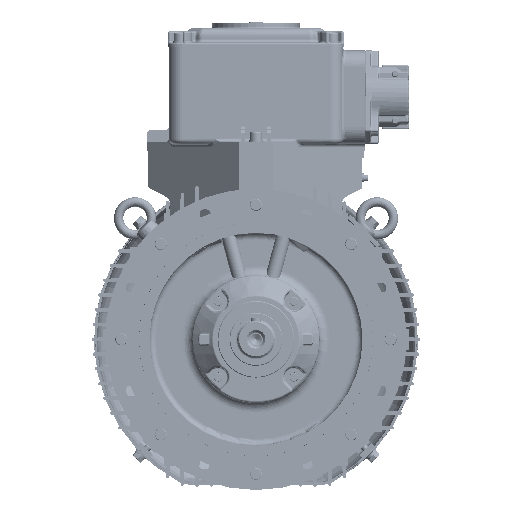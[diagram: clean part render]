
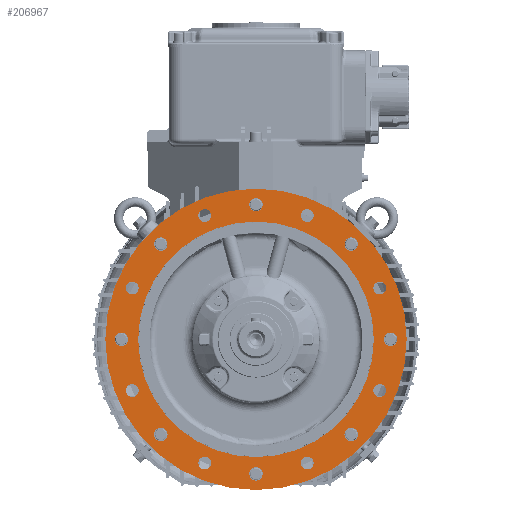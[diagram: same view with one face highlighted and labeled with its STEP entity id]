
A CAD part, left-side view. The second image highlights one B-rep face of the part: STEP entity #206967.
In plain terms, the highlighted planar face has unit normal (-1, 0, 0).
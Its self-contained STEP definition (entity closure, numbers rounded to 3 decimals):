
#38478=PLANE('',#218266);
#75192=ORIENTED_EDGE('',*,*,#99767,.F.);
#75193=ORIENTED_EDGE('',*,*,#99758,.T.);
#75194=ORIENTED_EDGE('',*,*,#99757,.T.);
#75195=ORIENTED_EDGE('',*,*,#99756,.T.);
#75196=ORIENTED_EDGE('',*,*,#99755,.T.);
#75197=ORIENTED_EDGE('',*,*,#99754,.T.);
#75198=ORIENTED_EDGE('',*,*,#99753,.T.);
#75199=ORIENTED_EDGE('',*,*,#99752,.T.);
#75200=ORIENTED_EDGE('',*,*,#99751,.T.);
#75201=ORIENTED_EDGE('',*,*,#99769,.T.);
#75202=ORIENTED_EDGE('',*,*,#99766,.F.);
#75203=ORIENTED_EDGE('',*,*,#99765,.F.);
#75204=ORIENTED_EDGE('',*,*,#99764,.F.);
#75205=ORIENTED_EDGE('',*,*,#99763,.F.);
#75206=ORIENTED_EDGE('',*,*,#99762,.F.);
#75207=ORIENTED_EDGE('',*,*,#99761,.F.);
#75208=ORIENTED_EDGE('',*,*,#99760,.F.);
#75209=ORIENTED_EDGE('',*,*,#99759,.F.);
#99751=EDGE_CURVE('',#114871,#114871,#119919,.T.);
#99752=EDGE_CURVE('',#114872,#114872,#119920,.T.);
#99753=EDGE_CURVE('',#114873,#114873,#119921,.T.);
#99754=EDGE_CURVE('',#114874,#114874,#119922,.T.);
#99755=EDGE_CURVE('',#114875,#114875,#119923,.T.);
#99756=EDGE_CURVE('',#114876,#114876,#119924,.T.);
#99757=EDGE_CURVE('',#114877,#114877,#119925,.T.);
#99758=EDGE_CURVE('',#114878,#114878,#119926,.T.);
#99759=EDGE_CURVE('',#114879,#114879,#119927,.T.);
#99760=EDGE_CURVE('',#114880,#114880,#119928,.T.);
#99761=EDGE_CURVE('',#114881,#114881,#119929,.T.);
#99762=EDGE_CURVE('',#114882,#114882,#119930,.T.);
#99763=EDGE_CURVE('',#114883,#114883,#119931,.T.);
#99764=EDGE_CURVE('',#114884,#114884,#119932,.T.);
#99765=EDGE_CURVE('',#114885,#114885,#119933,.T.);
#99766=EDGE_CURVE('',#114886,#114886,#119934,.T.);
#99767=EDGE_CURVE('',#114887,#114887,#119935,.T.);
#99769=EDGE_CURVE('',#114889,#114889,#119937,.T.);
#114871=VERTEX_POINT('',#314735);
#114872=VERTEX_POINT('',#314738);
#114873=VERTEX_POINT('',#314741);
#114874=VERTEX_POINT('',#314744);
#114875=VERTEX_POINT('',#314747);
#114876=VERTEX_POINT('',#314750);
#114877=VERTEX_POINT('',#314753);
#114878=VERTEX_POINT('',#314756);
#114879=VERTEX_POINT('',#314760);
#114880=VERTEX_POINT('',#314763);
#114881=VERTEX_POINT('',#314766);
#114882=VERTEX_POINT('',#314769);
#114883=VERTEX_POINT('',#314772);
#114884=VERTEX_POINT('',#314775);
#114885=VERTEX_POINT('',#314778);
#114886=VERTEX_POINT('',#314781);
#114887=VERTEX_POINT('',#314784);
#114889=VERTEX_POINT('',#314793);
#119919=CIRCLE('',#218227,10.);
#119920=CIRCLE('',#218229,10.);
#119921=CIRCLE('',#218231,10.);
#119922=CIRCLE('',#218233,10.);
#119923=CIRCLE('',#218235,10.);
#119924=CIRCLE('',#218237,10.);
#119925=CIRCLE('',#218239,10.);
#119926=CIRCLE('',#218241,10.);
#119927=CIRCLE('',#218244,9.5);
#119928=CIRCLE('',#218246,9.5);
#119929=CIRCLE('',#218248,9.5);
#119930=CIRCLE('',#218250,9.5);
#119931=CIRCLE('',#218252,9.5);
#119932=CIRCLE('',#218254,9.5);
#119933=CIRCLE('',#218256,9.5);
#119934=CIRCLE('',#218258,9.5);
#119935=CIRCLE('',#218260,225.);
#119937=CIRCLE('',#218267,175.919);
#129907=EDGE_LOOP('',(#75192));
#129908=EDGE_LOOP('',(#75193));
#129909=EDGE_LOOP('',(#75194));
#129910=EDGE_LOOP('',(#75195));
#129911=EDGE_LOOP('',(#75196));
#129912=EDGE_LOOP('',(#75197));
#129913=EDGE_LOOP('',(#75198));
#129914=EDGE_LOOP('',(#75199));
#129915=EDGE_LOOP('',(#75200));
#129916=EDGE_LOOP('',(#75201));
#129917=EDGE_LOOP('',(#75202));
#129918=EDGE_LOOP('',(#75203));
#129919=EDGE_LOOP('',(#75204));
#129920=EDGE_LOOP('',(#75205));
#129921=EDGE_LOOP('',(#75206));
#129922=EDGE_LOOP('',(#75207));
#129923=EDGE_LOOP('',(#75208));
#129924=EDGE_LOOP('',(#75209));
#140897=FACE_BOUND('',#129907,.T.);
#140898=FACE_BOUND('',#129908,.T.);
#140899=FACE_BOUND('',#129909,.T.);
#140900=FACE_BOUND('',#129910,.T.);
#140901=FACE_BOUND('',#129911,.T.);
#140902=FACE_BOUND('',#129912,.T.);
#140903=FACE_BOUND('',#129913,.T.);
#140904=FACE_BOUND('',#129914,.T.);
#140905=FACE_BOUND('',#129915,.T.);
#140906=FACE_BOUND('',#129916,.T.);
#140907=FACE_BOUND('',#129917,.T.);
#140908=FACE_BOUND('',#129918,.T.);
#140909=FACE_BOUND('',#129919,.T.);
#140910=FACE_BOUND('',#129920,.T.);
#140911=FACE_BOUND('',#129921,.T.);
#140912=FACE_BOUND('',#129922,.T.);
#140913=FACE_BOUND('',#129923,.T.);
#140914=FACE_BOUND('',#129924,.T.);
#206967=ADVANCED_FACE('',(#140897,#140898,#140899,#140900,#140901,#140902,
#140903,#140904,#140905,#140906,#140907,#140908,#140909,#140910,#140911,
#140912,#140913,#140914),#38478,.F.);
#218227=AXIS2_PLACEMENT_3D('',#314734,#253974,#253975);
#218229=AXIS2_PLACEMENT_3D('',#314737,#253978,#253979);
#218231=AXIS2_PLACEMENT_3D('',#314740,#253982,#253983);
#218233=AXIS2_PLACEMENT_3D('',#314743,#253986,#253987);
#218235=AXIS2_PLACEMENT_3D('',#314746,#253990,#253991);
#218237=AXIS2_PLACEMENT_3D('',#314749,#253994,#253995);
#218239=AXIS2_PLACEMENT_3D('',#314752,#253998,#253999);
#218241=AXIS2_PLACEMENT_3D('',#314755,#254002,#254003);
#218244=AXIS2_PLACEMENT_3D('',#314759,#254008,#254009);
#218246=AXIS2_PLACEMENT_3D('',#314762,#254012,#254013);
#218248=AXIS2_PLACEMENT_3D('',#314765,#254016,#254017);
#218250=AXIS2_PLACEMENT_3D('',#314768,#254020,#254021);
#218252=AXIS2_PLACEMENT_3D('',#314771,#254024,#254025);
#218254=AXIS2_PLACEMENT_3D('',#314774,#254028,#254029);
#218256=AXIS2_PLACEMENT_3D('',#314777,#254032,#254033);
#218258=AXIS2_PLACEMENT_3D('',#314780,#254036,#254037);
#218260=AXIS2_PLACEMENT_3D('',#314783,#254040,#254041);
#218266=AXIS2_PLACEMENT_3D('',#314791,#254052,#254053);
#218267=AXIS2_PLACEMENT_3D('',#314792,#254054,#254055);
#253974=DIRECTION('',(1.,0.,0.));
#253975=DIRECTION('',(0.,0.,-1.));
#253978=DIRECTION('',(1.,0.,0.));
#253979=DIRECTION('',(0.,0.,-1.));
#253982=DIRECTION('',(1.,0.,0.));
#253983=DIRECTION('',(0.,0.,-1.));
#253986=DIRECTION('',(1.,0.,0.));
#253987=DIRECTION('',(0.,0.,-1.));
#253990=DIRECTION('',(1.,0.,0.));
#253991=DIRECTION('',(0.,0.,-1.));
#253994=DIRECTION('',(1.,0.,0.));
#253995=DIRECTION('',(0.,0.,-1.));
#253998=DIRECTION('',(1.,0.,0.));
#253999=DIRECTION('',(0.,0.,-1.));
#254002=DIRECTION('',(1.,0.,0.));
#254003=DIRECTION('',(0.,0.,-1.));
#254008=DIRECTION('',(-1.,0.,0.));
#254009=DIRECTION('',(0.,-1.,0.));
#254012=DIRECTION('',(-1.,0.,0.));
#254013=DIRECTION('',(0.,-1.,0.));
#254016=DIRECTION('',(-1.,0.,0.));
#254017=DIRECTION('',(0.,-1.,0.));
#254020=DIRECTION('',(-1.,0.,0.));
#254021=DIRECTION('',(0.,-1.,0.));
#254024=DIRECTION('',(-1.,0.,0.));
#254025=DIRECTION('',(0.,-1.,0.));
#254028=DIRECTION('',(-1.,0.,0.));
#254029=DIRECTION('',(0.,-1.,0.));
#254032=DIRECTION('',(-1.,0.,0.));
#254033=DIRECTION('',(0.,-1.,0.));
#254036=DIRECTION('',(-1.,0.,0.));
#254037=DIRECTION('',(0.,-1.,0.));
#254040=DIRECTION('',(1.,0.,0.));
#254041=DIRECTION('',(0.,0.,1.));
#254052=DIRECTION('',(1.,0.,0.));
#254053=DIRECTION('',(0.,0.,1.));
#254054=DIRECTION('',(1.,0.,0.));
#254055=DIRECTION('',(0.,0.,1.));
#314734=CARTESIAN_POINT('',(-84.5,142.128,142.128));
#314735=CARTESIAN_POINT('',(-84.5,142.128,132.128));
#314737=CARTESIAN_POINT('',(-84.5,201.,0.));
#314738=CARTESIAN_POINT('',(-84.5,201.,-10.));
#314740=CARTESIAN_POINT('',(-84.5,142.128,-142.128));
#314741=CARTESIAN_POINT('',(-84.5,142.128,-152.128));
#314743=CARTESIAN_POINT('',(-84.5,0.,-201.));
#314744=CARTESIAN_POINT('',(-84.5,0.,-211.));
#314746=CARTESIAN_POINT('',(-84.5,-142.128,-142.128));
#314747=CARTESIAN_POINT('',(-84.5,-142.128,-152.128));
#314749=CARTESIAN_POINT('',(-84.5,-201.,0.));
#314750=CARTESIAN_POINT('',(-84.5,-201.,-10.));
#314752=CARTESIAN_POINT('',(-84.5,-142.128,142.128));
#314753=CARTESIAN_POINT('',(-84.5,-142.128,132.128));
#314755=CARTESIAN_POINT('',(-84.5,0.,201.));
#314756=CARTESIAN_POINT('',(-84.5,0.,191.));
#314759=CARTESIAN_POINT('',(-84.5,184.776,-76.537));
#314760=CARTESIAN_POINT('',(-84.5,175.276,-76.537));
#314762=CARTESIAN_POINT('',(-84.5,76.537,-184.776));
#314763=CARTESIAN_POINT('',(-84.5,67.037,-184.776));
#314765=CARTESIAN_POINT('',(-84.5,-76.537,-184.776));
#314766=CARTESIAN_POINT('',(-84.5,-86.037,-184.776));
#314768=CARTESIAN_POINT('',(-84.5,-184.776,-76.537));
#314769=CARTESIAN_POINT('',(-84.5,-194.276,-76.537));
#314771=CARTESIAN_POINT('',(-84.5,-184.776,76.537));
#314772=CARTESIAN_POINT('',(-84.5,-194.276,76.537));
#314774=CARTESIAN_POINT('',(-84.5,-76.537,184.776));
#314775=CARTESIAN_POINT('',(-84.5,-86.037,184.776));
#314777=CARTESIAN_POINT('',(-84.5,76.537,184.776));
#314778=CARTESIAN_POINT('',(-84.5,67.037,184.776));
#314780=CARTESIAN_POINT('',(-84.5,184.776,76.537));
#314781=CARTESIAN_POINT('',(-84.5,175.276,76.537));
#314783=CARTESIAN_POINT('',(-84.5,0.,0.));
#314784=CARTESIAN_POINT('',(-84.5,0.,225.));
#314791=CARTESIAN_POINT('',(-84.5,0.,242.195));
#314792=CARTESIAN_POINT('',(-84.5,0.,0.));
#314793=CARTESIAN_POINT('',(-84.5,0.,175.919));
